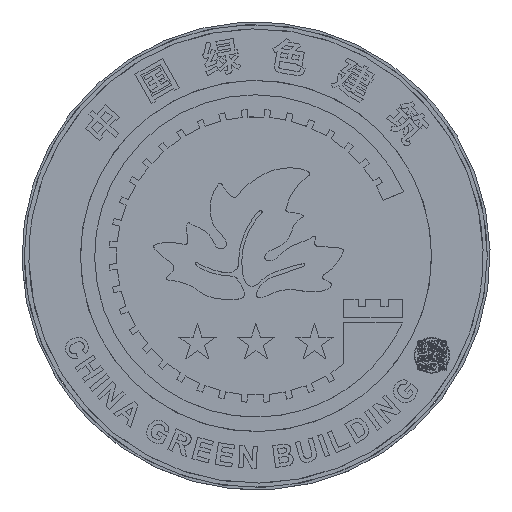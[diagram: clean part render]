
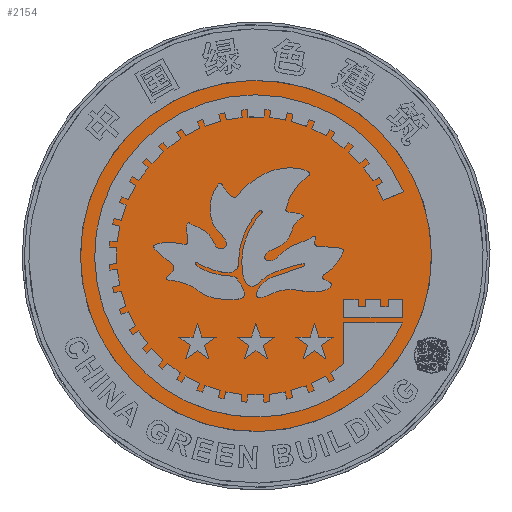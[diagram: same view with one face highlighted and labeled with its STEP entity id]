
A CAD part, top view. The second image highlights one B-rep face of the part: STEP entity #2154.
In plain terms, the highlighted planar face has unit normal (0, 0, 1).
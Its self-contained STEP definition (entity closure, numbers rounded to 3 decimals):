
#2154=ADVANCED_FACE('',(#4432),#31824,.T.);
#4432=FACE_OUTER_BOUND('',#6742,.T.);
#6742=EDGE_LOOP('',(#14606,#14607));
#14606=ORIENTED_EDGE('',*,*,#21364,.T.);
#14607=ORIENTED_EDGE('',*,*,#21367,.T.);
#21364=EDGE_CURVE('',#30393,#30395,#26440,.T.);
#21367=EDGE_CURVE('',#30395,#30393,#26443,.T.);
#26440=B_SPLINE_CURVE_WITH_KNOTS('',3,(#58745,#58746,#58747,#58748,#58749,
#58750,#58751,#58752,#58753,#58754,#58755,#58756,#58757),.UNSPECIFIED.,
 .F.,.F.,(4,3,3,3,4),(-9.,-8.,-7.,-6.,-5.),.UNSPECIFIED.);
#26443=B_SPLINE_CURVE_WITH_KNOTS('',3,(#58773,#58774,#58775,#58776,#58777,
#58778,#58779,#58780,#58781,#58782,#58783,#58784,#58785),.UNSPECIFIED.,
 .F.,.F.,(4,3,3,3,4),(-5.,-4.,-3.,-2.,-1.),.UNSPECIFIED.);
#30393=VERTEX_POINT('',#58727);
#30395=VERTEX_POINT('',#58729);
#31824=PLANE('',#34122);
#34122=AXIS2_PLACEMENT_3D('',#58699,#34941,$);
#34941=DIRECTION('',(0.,0.,1.));
#58699=CARTESIAN_POINT('',(5724.489,642.805,10.));
#58727=CARTESIAN_POINT('',(5528.502,-83.449,10.));
#58729=CARTESIAN_POINT('',(4982.671,431.262,10.));
#58745=CARTESIAN_POINT('',(5528.502,-83.449,10.));
#58746=CARTESIAN_POINT('',(5596.854,-10.959,10.));
#58747=CARTESIAN_POINT('',(5633.467,85.315,10.));
#58748=CARTESIAN_POINT('',(5630.546,184.9,10.));
#58749=CARTESIAN_POINT('',(5627.625,284.5,10.));
#58750=CARTESIAN_POINT('',(5585.429,378.467,10.));
#58751=CARTESIAN_POINT('',(5512.939,446.819,10.));
#58752=CARTESIAN_POINT('',(5440.457,515.179,10.));
#58753=CARTESIAN_POINT('',(5344.175,551.783,10.));
#58754=CARTESIAN_POINT('',(5244.59,548.863,10.));
#58755=CARTESIAN_POINT('',(5144.991,545.943,10.));
#58756=CARTESIAN_POINT('',(5051.031,503.753,10.));
#58757=CARTESIAN_POINT('',(4982.671,431.262,10.));
#58773=CARTESIAN_POINT('',(4982.671,431.262,10.));
#58774=CARTESIAN_POINT('',(4914.318,358.772,10.));
#58775=CARTESIAN_POINT('',(4877.707,262.503,10.));
#58776=CARTESIAN_POINT('',(4880.627,162.907,10.));
#58777=CARTESIAN_POINT('',(4883.548,63.315,10.));
#58778=CARTESIAN_POINT('',(4925.738,-30.652,10.));
#58779=CARTESIAN_POINT('',(4998.228,-99.011,10.));
#58780=CARTESIAN_POINT('',(5070.718,-167.363,10.));
#58781=CARTESIAN_POINT('',(5166.988,-203.969,10.));
#58782=CARTESIAN_POINT('',(5266.584,-201.048,10.));
#58783=CARTESIAN_POINT('',(5366.176,-198.127,10.));
#58784=CARTESIAN_POINT('',(5460.143,-155.939,10.));
#58785=CARTESIAN_POINT('',(5528.502,-83.449,10.));
